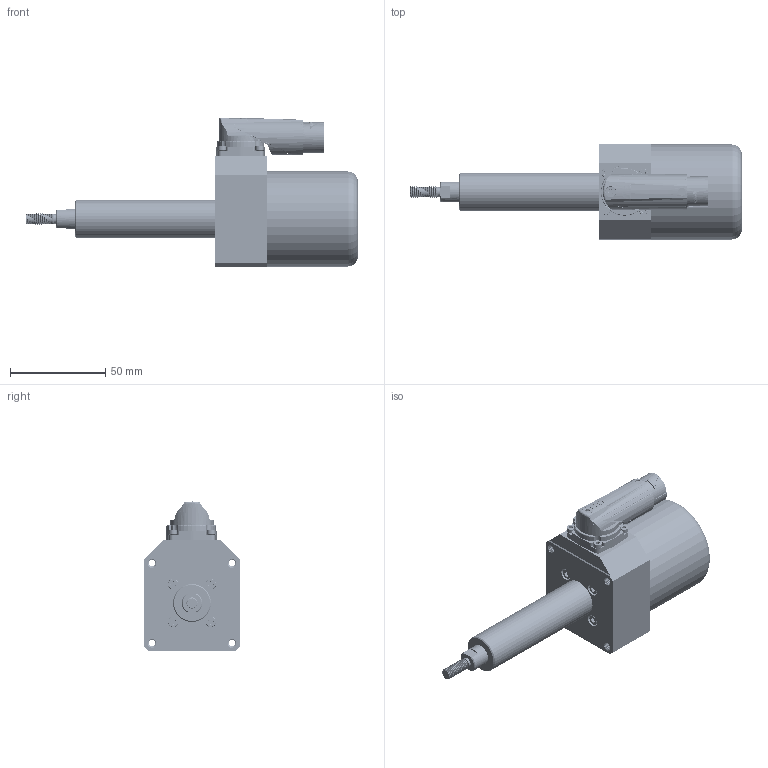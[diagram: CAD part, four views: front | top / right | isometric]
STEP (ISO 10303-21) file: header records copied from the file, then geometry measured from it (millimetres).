
FILE_DESCRIPTION(/* description */ (''),/* implementation_level */ '2;1');
FILE_NAME(/* name */ 'LE-BASE-50.XXX.115.XX.step',/* time_stamp */ '2024-05-15T18:19:47+02:00',/* author */ (''),/* organization */ (''),/* preprocessor_version */ 'ST-DEVELOPER v20',/* originating_system */ 'Autodesk Translation Framework v12.20.1.177',/* authorisation */ '');
FILE_SCHEMA (('AUTOMOTIVE_DESIGN { 1 0 10303 214 3 1 1 }'));
Length unit declared in the file: millimetre
Products named in the file (6): LE-BASE-50.XXX.115.XX; M15_Intercontec_EED_0600_12+3-polig, Stift; 131020; 118405-T-Flansch25x25; 91290A103_Black-Oxide Alloy Steel Socket Head Screw; 91290A123_Alloy Steel Socket Head Screw
Assembly tree (11 placements, depth 3):
  LE-BASE-50.XXX.115.XX
    M15_Intercontec_EED_0600_12+3-polig, Stift
      131020
      118405-T-Flansch25x25
    91290A103_Black-Oxide Alloy Steel Socket Head Screw  x4
    91290A123_Alloy Steel Socket Head Screw  x4
Bounding box: 174.7 x 50 x 78.42 mm (x, y, z)
Volume: 207761.4 mm3; surface area: 36806.9 mm2
Topology: 11 solids, 11 shells, 2985 faces, 7393 edges, 4876 vertices
Faces by surface type: plane 1783, cylinder 952, cone 132, bspline 80, torus 30, sphere 8
Full cylindrical faces by diameter (mm): 1 x15, 1.2 x3, 1.915 x80, 2.35 x152, 2.5 x80, 2.529 x4, 2.7 x4, 3 x152, 3.06 x1, 3.332 x32, 3.4 x4, 4 x1, 4.109 x10, 4.11 x10, 4.234 x24, 4.5 x4, 4.744 x6, 5 x1, 5.12 x20, 5.5 x5, 5.8 x1, 5.884 x11, 6.5 x4, 11 x1, 11.75 x1, 16.2 x1, 17.025 x1, 18.8 x1, 19.8 x1, 20 x1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
Entity records: 70661 total; most frequent: CARTESIAN_POINT 40087, ORIENTED_EDGE 6780, DIRECTION 5488, EDGE_CURVE 3390, VERTEX_POINT 2239, AXIS2_PLACEMENT_3D 1974, LINE 1540, VECTOR 1540
